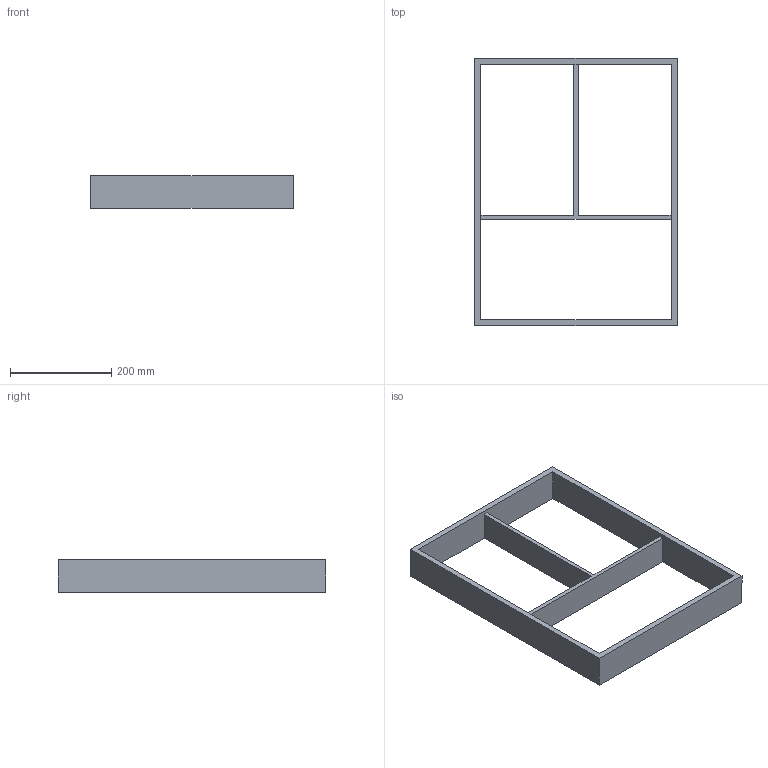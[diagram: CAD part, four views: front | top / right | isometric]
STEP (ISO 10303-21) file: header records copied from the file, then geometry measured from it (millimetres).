
FILE_DESCRIPTION (( 'STEP AP214' ), '1' );
FILE_NAME ('Vario Multi NL550_ZE400_16 mm_Alu.step', '2010-10-07T06:24:35', ( 'grass' ), ( '' ), 'SwSTEP 2.0', 'SolidWorks 2010', '' );
FILE_SCHEMA (( 'AUTOMOTIVE_DESIGN' ));
Length unit declared in the file: millimetre
Products named in the file (1): Vario Multi NL550_ZE400_16 mm_Alu
Bounding box: 400 x 529 x 65 mm (x, y, z)
Volume: 1719508.8 mm3; surface area: 364640 mm2
Topology: 1 solids, 1 shells, 16 faces, 48 edges, 32 vertices
Faces by surface type: plane 16
Entity records: 578 total; most frequent: CARTESIAN_POINT 97, ORIENTED_EDGE 96, DIRECTION 82, EDGE_CURVE 48, VECTOR 48, LINE 48, VERTEX_POINT 32, EDGE_LOOP 20
